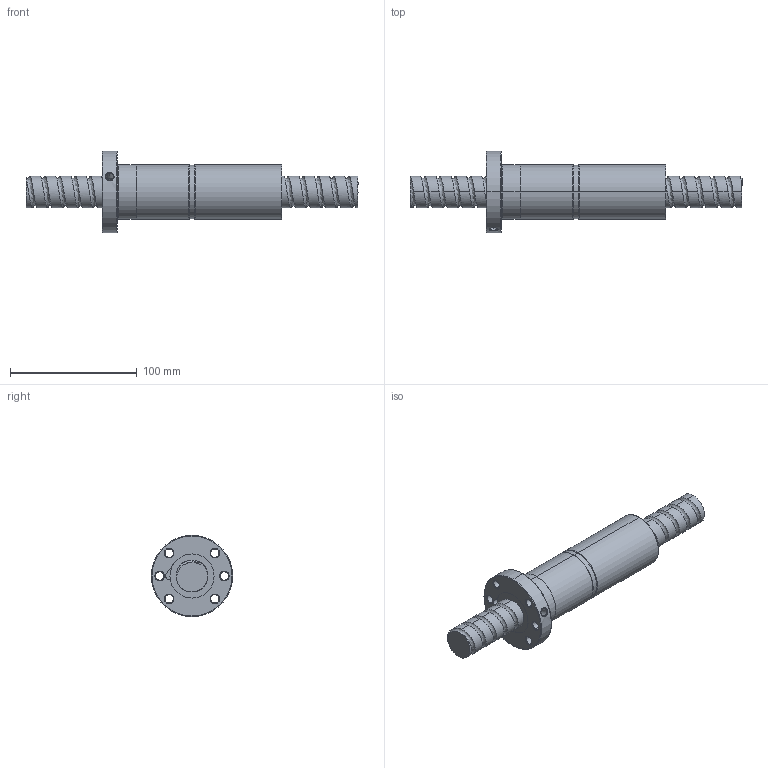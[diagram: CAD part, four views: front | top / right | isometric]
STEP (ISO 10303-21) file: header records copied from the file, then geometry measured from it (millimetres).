
FILE_DESCRIPTION (( 'STEP AP214' ), '1' );
FILE_NAME ('FDDC02512T4-C-A.STEP', '2010-07-07T01:13:04', ( 'XPAUTO' ), ( 'XPAUTO' ), 'SwSTEP 2.0', 'SolidWorks 2007', '' );
FILE_SCHEMA (( 'AUTOMOTIVE_DESIGN' ));
Length unit declared in the file: millimetre
Products named in the file (3): FDDC02512T4-C-A.sldasm-Part-1-1_預設; FDDC02512T4-C-A; FDDC02512T4-C-A.sldasm-Part-2-1_預設
Assembly tree (2 placements, depth 2):
  FDDC02512T4-C-A
    FDDC02512T4-C-A.sldasm-Part-1-1_預設
    FDDC02512T4-C-A.sldasm-Part-2-1_預設
Bounding box: 262 x 64 x 64 mm (x, y, z)
Volume: 272324.1 mm3; surface area: 61848.5 mm2
Topology: 2 solids, 2 shells, 142 faces, 356 edges, 223 vertices
Faces by surface type: cylinder 87, cone 24, plane 16, torus 10, bspline 5
Entity records: 26905 total; most frequent: CARTESIAN_POINT 23528, ORIENTED_EDGE 712, DIRECTION 656, EDGE_CURVE 356, AXIS2_PLACEMENT_3D 269, VERTEX_POINT 223, EDGE_LOOP 163, FACE_OUTER_BOUND 142
